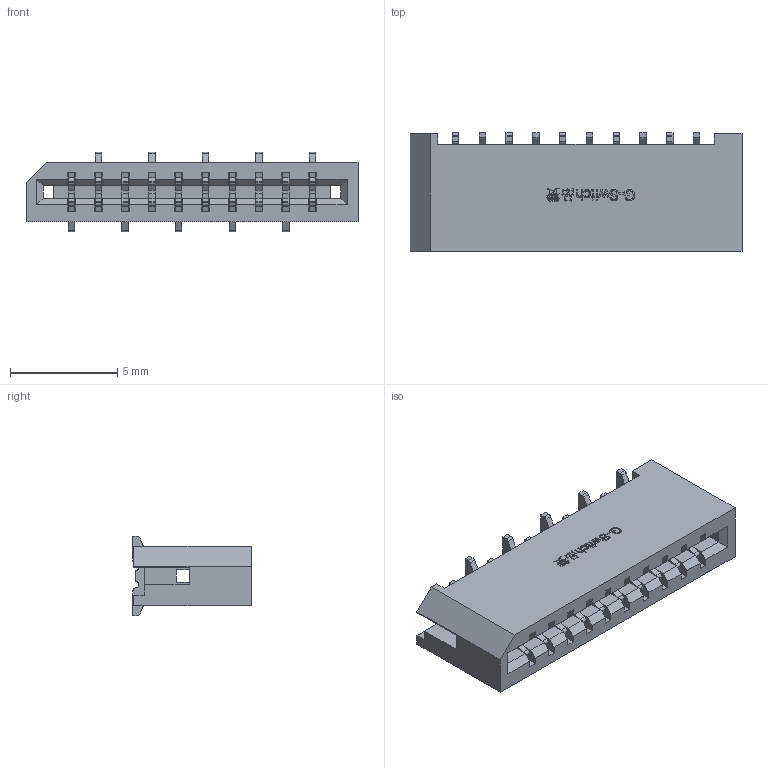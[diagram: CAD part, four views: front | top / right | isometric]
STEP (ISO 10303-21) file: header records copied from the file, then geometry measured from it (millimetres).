
FILE_DESCRIPTION (( 'STEP AP203' ), '1' );
FILE_NAME ('GT-F1251SV55-10BBT01.STEP', '2024-02-23T08:00:01', ( '' ), ( '' ), 'SwSTEP 2.0', 'SolidWorks 2023', '' );
FILE_SCHEMA (( 'CONFIG_CONTROL_DESIGN' ));
Length unit declared in the file: millimetre
Products named in the file (5): 125C-0001_3.stp; 125C0_7_3.stp; GT-F1251SV55-10BBT01.stp_4.STEP; GT-F1251SV55-10BBT01; 125C0_ASM_9_ASM_3.stp
Assembly tree (5 placements, depth 4):
  GT-F1251SV55-10BBT01
    GT-F1251SV55-10BBT01.stp_4.STEP
      125C0_ASM_9_ASM_3.stp
        125C0_7_3.stp
      125C-0001_3.stp  x2
Bounding box: 15.5 x 5.55 x 3.7 mm (x, y, z)
Volume: 176.6 mm3; surface area: 708.5 mm2
Topology: 11 solids, 11 shells, 1086 faces, 3095 edges, 2048 vertices
Faces by surface type: plane 722, cylinder 290, bspline 74
Entity records: 29279 total; most frequent: CARTESIAN_POINT 8767, ORIENTED_EDGE 4420, DIRECTION 3726, EDGE_CURVE 2210, LINE 1752, VECTOR 1752, VERTEX_POINT 1458, AXIS2_PLACEMENT_3D 987
